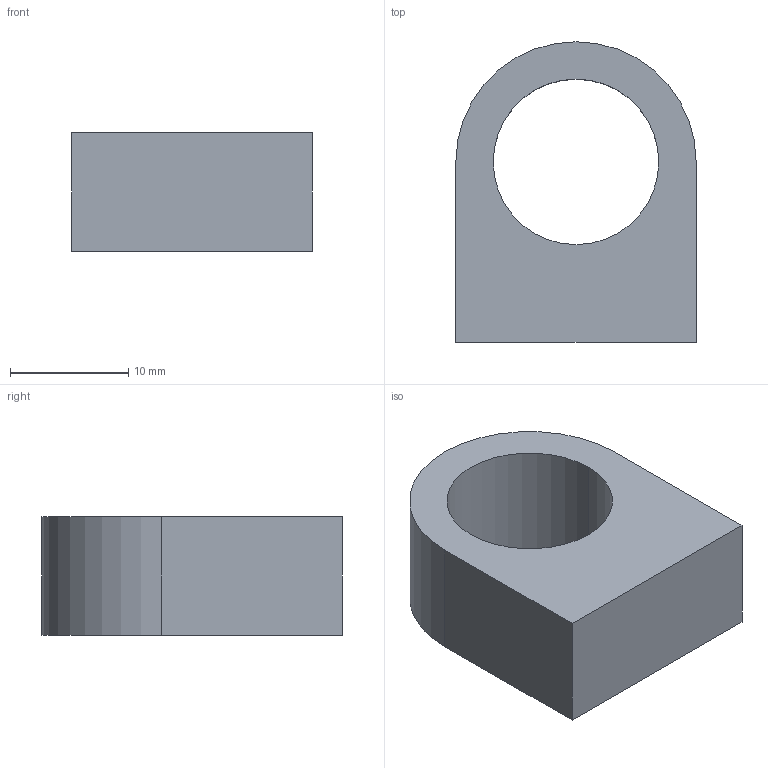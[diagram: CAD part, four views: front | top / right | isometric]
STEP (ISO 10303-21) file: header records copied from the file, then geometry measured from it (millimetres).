
FILE_DESCRIPTION (( 'STEP AP214' ), '1' );
FILE_NAME ('YYDK-500-0010 油管保护罩1（500T）-4.step', '2024-11-20T05:46:55', ( '' ), ( '' ), 'SwSTEP 2.0', 'SolidWorks 2020', '' );
FILE_SCHEMA (( 'AUTOMOTIVE_DESIGN' ));
Length unit declared in the file: millimetre
Products named in the file (1): YYDK-500-0010 油管保护罩1（500T）-4
Bounding box: 20.32 x 25.4 x 10.01 mm (x, y, z)
Volume: 3181.3 mm3; surface area: 1903.7 mm2
Topology: 1 solids, 1 shells, 8 faces, 18 edges, 12 vertices
Faces by surface type: plane 5, cylinder 3
Entity records: 266 total; most frequent: DIRECTION 42, CARTESIAN_POINT 39, ORIENTED_EDGE 36, EDGE_CURVE 18, AXIS2_PLACEMENT_3D 15, VERTEX_POINT 12, VECTOR 12, LINE 12
